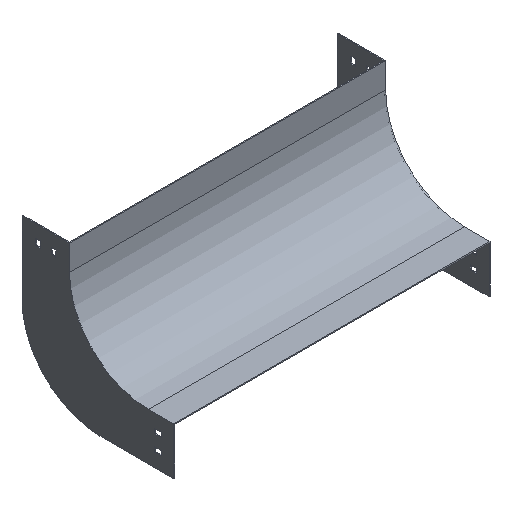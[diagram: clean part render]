
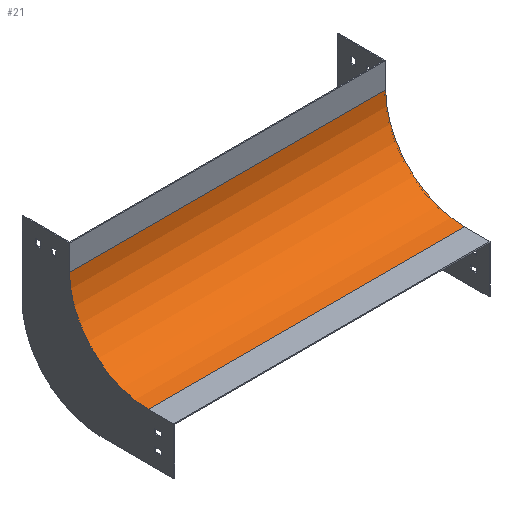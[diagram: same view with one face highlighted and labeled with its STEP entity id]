
A CAD part, isometric view. The second image highlights one B-rep face of the part: STEP entity #21.
In plain terms, the highlighted cylindrical face has radius 125 mm (diameter 250 mm), a partial arc.
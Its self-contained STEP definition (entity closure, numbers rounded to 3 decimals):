
#11 = CARTESIAN_POINT ( 'NONE',  ( 250., -125., -40. ) ) ;
#21 = ADVANCED_FACE ( 'NONE', ( #1217 ), #962, .F. ) ;
#65 = LINE ( 'NONE', #837, #380 ) ;
#96 = ORIENTED_EDGE ( 'NONE', *, *, #1378, .F. ) ;
#118 = EDGE_CURVE ( 'NONE', #183, #1068, #452, .T. ) ;
#183 = VERTEX_POINT ( 'NONE', #508 ) ;
#221 = VERTEX_POINT ( 'NONE', #1074 ) ;
#233 = CARTESIAN_POINT ( 'NONE',  ( -250., -125., -40. ) ) ;
#256 = CARTESIAN_POINT ( 'NONE',  ( -250., -125., -165. ) ) ;
#338 = DIRECTION ( 'NONE',  ( 0., 0., 1. ) ) ;
#380 = VECTOR ( 'NONE', #1481, 1000. ) ;
#452 = CIRCLE ( 'NONE', #877, 125. ) ;
#464 = CARTESIAN_POINT ( 'NONE',  ( 250., -125., -40. ) ) ;
#484 = VERTEX_POINT ( 'NONE', #256 ) ;
#508 = CARTESIAN_POINT ( 'NONE',  ( 250., 0., -40. ) ) ;
#538 = CARTESIAN_POINT ( 'NONE',  ( 250., 0., -40. ) ) ;
#648 = LINE ( 'NONE', #538, #1130 ) ;
#674 = ORIENTED_EDGE ( 'NONE', *, *, #1610, .T. ) ;
#716 = DIRECTION ( 'NONE',  ( -1., 0., 0. ) ) ;
#728 = ORIENTED_EDGE ( 'NONE', *, *, #1165, .T. ) ;
#732 = CARTESIAN_POINT ( 'NONE',  ( 250., -125., -165. ) ) ;
#748 = DIRECTION ( 'NONE',  ( -1., 0., 0. ) ) ;
#836 = EDGE_LOOP ( 'NONE', ( #728, #96, #1608, #674 ) ) ;
#837 = CARTESIAN_POINT ( 'NONE',  ( 250., -125., -165. ) ) ;
#850 = AXIS2_PLACEMENT_3D ( 'NONE', #464, #716, #338 ) ;
#877 = AXIS2_PLACEMENT_3D ( 'NONE', #11, #1538, #1269 ) ;
#962 = CYLINDRICAL_SURFACE ( 'NONE', #850, 125. ) ;
#1068 = VERTEX_POINT ( 'NONE', #732 ) ;
#1074 = CARTESIAN_POINT ( 'NONE',  ( -250., 0., -40. ) ) ;
#1130 = VECTOR ( 'NONE', #1568, 1000. ) ;
#1165 = EDGE_CURVE ( 'NONE', #221, #484, #1597, .T. ) ;
#1179 = AXIS2_PLACEMENT_3D ( 'NONE', #233, #748, #1444 ) ;
#1217 = FACE_OUTER_BOUND ( 'NONE', #836, .T. ) ;
#1269 = DIRECTION ( 'NONE',  ( 0., 0., 1. ) ) ;
#1378 = EDGE_CURVE ( 'NONE', #1068, #484, #65, .T. ) ;
#1444 = DIRECTION ( 'NONE',  ( 0., 0., 1. ) ) ;
#1481 = DIRECTION ( 'NONE',  ( -1., 0., 0. ) ) ;
#1538 = DIRECTION ( 'NONE',  ( -1., 0., 0. ) ) ;
#1568 = DIRECTION ( 'NONE',  ( -1., 0., 0. ) ) ;
#1597 = CIRCLE ( 'NONE', #1179, 125. ) ;
#1608 = ORIENTED_EDGE ( 'NONE', *, *, #118, .F. ) ;
#1610 = EDGE_CURVE ( 'NONE', #183, #221, #648, .T. ) ;
